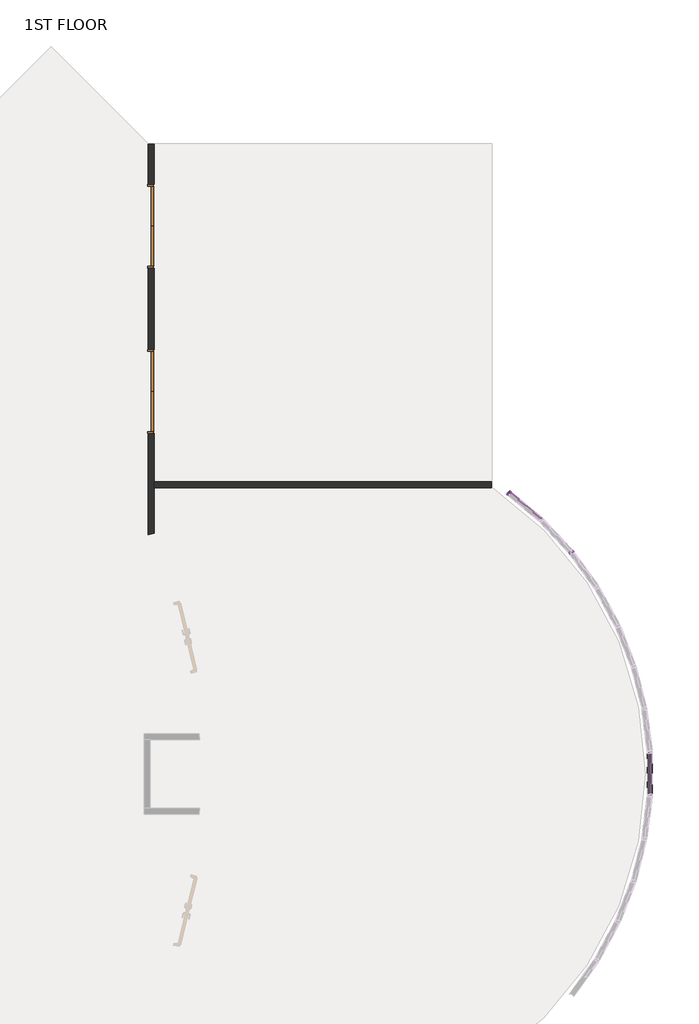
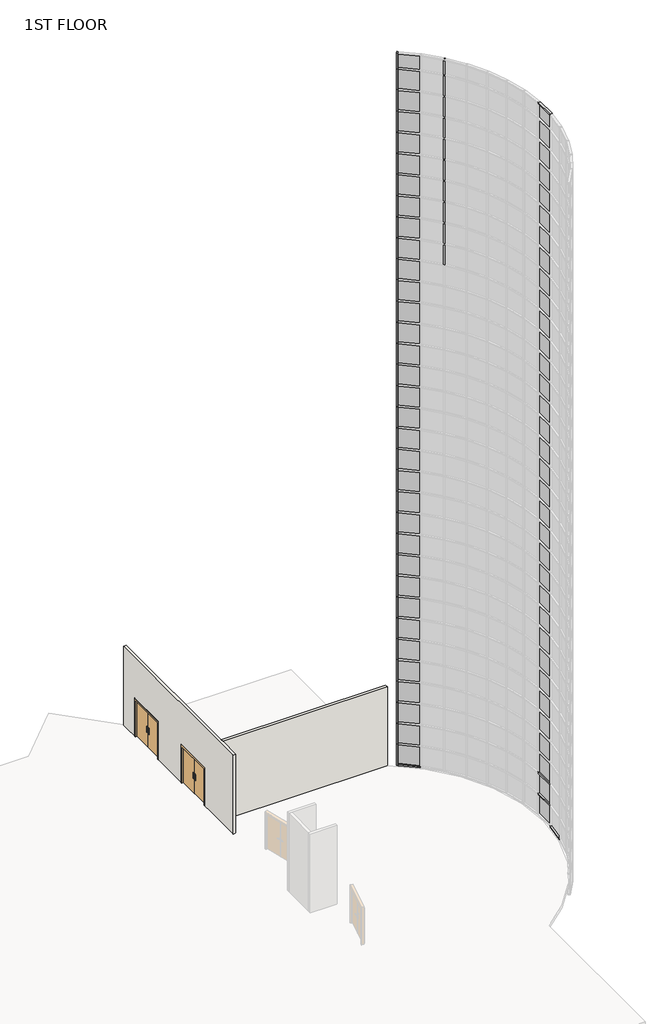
# One storey, part 14 of 17: 68 plates, 49 members, 2 doors, 2 walls.
"""IFC4 building model written with IfcOpenShell, lengths in millimetres."""

from ifc_helpers import new_model, si_unit, frame, origin, place, context, project, spatial, polyline, outline, extrude, faceted_brep, transform, mapped, element, save
from components import door_b3a27a16, member_56cb0dcd, member_8b20f1e8, member_0c249660, member_2b49869a, member_410c6227, member_73c23c35, member_75074519, system_panel_glazed_523f05bf, system_panel_glazed_ce2914f7, system_panel_glazed_4e7d67ad, system_panel_glazed_e049e42f, system_panel_glazed_17a02f56, system_panel_glazed_5ae89cf9

model = new_model("IFC4")

# Units and contexts
model_context = context("Model", 3, world=origin())
ifc_project = project(units=[si_unit("LENGTHUNIT", "METRE", prefix="MILLI")], contexts=[model_context])

# Site, building, storey
site = spatial("IfcSite", under=ifc_project)
building = spatial("IfcBuilding", under=site)
storey = spatial("IfcBuildingStorey", under=building, Name="1ST FLOOR", Elevation=4572.0)

# Doors
placement = place(None, origin())
door_shape = door_b3a27a16(model_context)
element("IfcDoor", 1, ObjectType="Door-Passage-Double-Flush-Dbl_Acting : 84\" x 84\"", at=placement, inside=storey, context=model_context, shape_type="MappedRepresentation", body=[
    mapped(door_shape, transform((34956.2675515, 31499.175, 4572.0), x_axis=(0.0, -1.0, 0.0), y_axis=(1.0, 0.0, 0.0), z_axis=(0.0, 0.0, 1.0))),
])
element("IfcDoor", 2, ObjectType="Door-Passage-Double-Flush-Dbl_Acting : 84\" x 84\"", at=placement, inside=storey, context=model_context, shape_type="MappedRepresentation", body=[
    mapped(door_shape, transform((34956.2675515, 27101.8, 4572.0), x_axis=(0.0, -1.0, 0.0), y_axis=(1.0, 0.0, 0.0), z_axis=(0.0, 0.0, 1.0))),
])

# Members
member_shape = member_56cb0dcd(model_context)
element("IfcMember", 3, ObjectType="Rectangular Mullion : 2.5\" x 5\" rectangular", at=placement, inside=storey, context=model_context, shape_type="MappedRepresentation", body=[
    mapped(member_shape, transform((48255.7227419, 16370.6587498, 45720.0), x_axis=(0.0, 0.0, 1.0), y_axis=(-1.0, 0.0, 0.0), z_axis=(0.0, -1.0, 0.0))),
])
member_2_shape = member_8b20f1e8(model_context)
element("IfcMember", 4, ObjectType="Rectangular Mullion : 2.5\" x 5\" rectangular", at=placement, inside=storey, context=model_context, shape_type="MappedRepresentation", body=[
    mapped(member_2_shape, transform((44528.7242152, 24373.4791024, 4572.0), x_axis=(0.0, 0.0, -1.0), y_axis=(-0.641203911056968, -0.7673705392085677, 0.0), z_axis=(-0.7673705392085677, 0.641203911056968, 0.0))),
])
element("IfcMember", 5, ObjectType="Rectangular Mullion : 2.5\" x 5\" rectangular", at=placement, inside=storey, context=model_context, shape_type="MappedRepresentation", body=[
    mapped(member_shape, transform((48251.7655333, 16307.4063214, 4572.0), x_axis=(0.0, 0.0, -1.0), y_axis=(-0.9922024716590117, 0.12463649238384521, 0.0), z_axis=(0.12463649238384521, 0.9922024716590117, 0.0))),
])
member_3_shape = member_0c249660(model_context)
element("IfcMember", 6, ObjectType="Rectangular Mullion : 2.5\" x 5\" rectangular", at=placement, inside=storey, context=model_context, shape_type="MappedRepresentation", body=[
    mapped(member_3_shape, transform((48255.7227419, 16370.6587498, 5791.2), x_axis=(0.0, 0.0, 1.0), y_axis=(-1.0, 0.0, 0.0), z_axis=(0.0, -1.0, 0.0))),
])
element("IfcMember", 7, ObjectType="Rectangular Mullion : 2.5\" x 5\" rectangular", at=placement, inside=storey, context=model_context, shape_type="MappedRepresentation", body=[
    mapped(member_3_shape, transform((48255.7227419, 16370.6587498, 7010.4), x_axis=(0.0, 0.0, 1.0), y_axis=(-1.0, 0.0, 0.0), z_axis=(0.0, -1.0, 0.0))),
])
member_4_shape = member_2b49869a(model_context)
element("IfcMember", 8, ObjectType="Rectangular Mullion : 2.5\" x 5\" rectangular", at=placement, inside=storey, context=model_context, shape_type="MappedRepresentation", body=[
    mapped(member_4_shape, transform((46162.5812636, 22819.6275032, 33832.8), x_axis=(0.6344432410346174, -0.7729694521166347, 0.0), y_axis=(-0.7729694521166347, -0.6344432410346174, 0.0), z_axis=(0.0, 0.0, -1.0))),
])
element("IfcMember", 9, ObjectType="Rectangular Mullion : 2.5\" x 5\" rectangular", at=placement, inside=storey, context=model_context, shape_type="MappedRepresentation", body=[
    mapped(member_4_shape, transform((46162.5812636, 22819.6275032, 35052.0), x_axis=(0.6344432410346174, -0.7729694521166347, 0.0), y_axis=(-0.7729694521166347, -0.6344432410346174, 0.0), z_axis=(0.0, 0.0, -1.0))),
])
element("IfcMember", 10, ObjectType="Rectangular Mullion : 2.5\" x 5\" rectangular", at=placement, inside=storey, context=model_context, shape_type="MappedRepresentation", body=[
    mapped(member_4_shape, transform((46162.5812636, 22819.6275032, 36271.2), x_axis=(0.6344432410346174, -0.7729694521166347, 0.0), y_axis=(-0.7729694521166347, -0.6344432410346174, 0.0), z_axis=(0.0, 0.0, -1.0))),
])
element("IfcMember", 11, ObjectType="Rectangular Mullion : 2.5\" x 5\" rectangular", at=placement, inside=storey, context=model_context, shape_type="MappedRepresentation", body=[
    mapped(member_4_shape, transform((46162.5812636, 22819.6275032, 37490.4), x_axis=(0.6344432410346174, -0.7729694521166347, 0.0), y_axis=(-0.7729694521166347, -0.6344432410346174, 0.0), z_axis=(0.0, 0.0, -1.0))),
])
element("IfcMember", 12, ObjectType="Rectangular Mullion : 2.5\" x 5\" rectangular", at=placement, inside=storey, context=model_context, shape_type="MappedRepresentation", body=[
    mapped(member_4_shape, transform((46162.5812636, 22819.6275032, 38709.6), x_axis=(0.6344432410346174, -0.7729694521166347, 0.0), y_axis=(-0.7729694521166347, -0.6344432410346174, 0.0), z_axis=(0.0, 0.0, -1.0))),
])
element("IfcMember", 13, ObjectType="Rectangular Mullion : 2.5\" x 5\" rectangular", at=placement, inside=storey, context=model_context, shape_type="MappedRepresentation", body=[
    mapped(member_4_shape, transform((46162.5812636, 22819.6275032, 39928.8), x_axis=(0.6344432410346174, -0.7729694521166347, 0.0), y_axis=(-0.7729694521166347, -0.6344432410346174, 0.0), z_axis=(0.0, 0.0, -1.0))),
])
element("IfcMember", 14, ObjectType="Rectangular Mullion : 2.5\" x 5\" rectangular", at=placement, inside=storey, context=model_context, shape_type="MappedRepresentation", body=[
    mapped(member_4_shape, transform((46162.5812636, 22819.6275032, 41148.0), x_axis=(0.6344432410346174, -0.7729694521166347, 0.0), y_axis=(-0.7729694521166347, -0.6344432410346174, 0.0), z_axis=(0.0, 0.0, -1.0))),
])
element("IfcMember", 15, ObjectType="Rectangular Mullion : 2.5\" x 5\" rectangular", at=placement, inside=storey, context=model_context, shape_type="MappedRepresentation", body=[
    mapped(member_4_shape, transform((46162.5812636, 22819.6275032, 42367.2), x_axis=(0.6344432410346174, -0.7729694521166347, 0.0), y_axis=(-0.7729694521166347, -0.6344432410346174, 0.0), z_axis=(0.0, 0.0, -1.0))),
])
element("IfcMember", 16, ObjectType="Rectangular Mullion : 2.5\" x 5\" rectangular", at=placement, inside=storey, context=model_context, shape_type="MappedRepresentation", body=[
    mapped(member_4_shape, transform((46162.5812636, 22819.6275032, 43586.4), x_axis=(0.6344432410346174, -0.7729694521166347, 0.0), y_axis=(-0.7729694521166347, -0.6344432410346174, 0.0), z_axis=(0.0, 0.0, -1.0))),
])
member_5_shape = member_410c6227(model_context)
element("IfcMember", 17, ObjectType="Rectangular Mullion : 2.5\" x 5\" rectangular", at=placement, inside=storey, context=model_context, shape_type="MappedRepresentation", body=[
    mapped(member_5_shape, transform((46162.5812636, 22819.6275032, 44805.6), x_axis=(0.6344432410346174, -0.7729694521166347, 0.0), y_axis=(-0.7729694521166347, -0.6344432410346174, 0.0), z_axis=(0.0, 0.0, -1.0))),
])
member_6_shape = member_73c23c35(model_context)
element("IfcMember", 18, ObjectType="Rectangular Mullion : 2.5\" x 5\" rectangular", at=placement, inside=storey, context=model_context, shape_type="MappedRepresentation", body=[
    mapped(member_6_shape, transform((44479.996186, 24414.1955507, 45720.0), x_axis=(-0.7673705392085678, 0.6412039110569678, 0.0), y_axis=(-0.6412039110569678, -0.7673705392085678, 0.0), z_axis=(0.0, 0.0, 1.0))),
])
member_7_shape = member_75074519(model_context)
element("IfcMember", 19, ObjectType="Rectangular Mullion : 2.5\" x 5\" rectangular", at=placement, inside=storey, context=model_context, shape_type="MappedRepresentation", body=[
    mapped(member_7_shape, transform((44479.996186, 24414.1955507, 5791.2), x_axis=(-0.7673705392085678, 0.6412039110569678, 0.0), y_axis=(-0.6412039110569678, -0.7673705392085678, 0.0), z_axis=(0.0, 0.0, 1.0))),
])
element("IfcMember", 20, ObjectType="Rectangular Mullion : 2.5\" x 5\" rectangular", at=placement, inside=storey, context=model_context, shape_type="MappedRepresentation", body=[
    mapped(member_7_shape, transform((44479.996186, 24414.1955507, 7010.4), x_axis=(-0.7673705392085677, 0.641203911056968, 0.0), y_axis=(-0.641203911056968, -0.7673705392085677, 0.0), z_axis=(0.0, 0.0, 1.0))),
])
element("IfcMember", 21, ObjectType="Rectangular Mullion : 2.5\" x 5\" rectangular", at=placement, inside=storey, context=model_context, shape_type="MappedRepresentation", body=[
    mapped(member_7_shape, transform((44479.996186, 24414.1955507, 8229.6), x_axis=(-0.7673705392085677, 0.641203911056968, 0.0), y_axis=(-0.641203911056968, -0.7673705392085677, 0.0), z_axis=(0.0, 0.0, 1.0))),
])
element("IfcMember", 22, ObjectType="Rectangular Mullion : 2.5\" x 5\" rectangular", at=placement, inside=storey, context=model_context, shape_type="MappedRepresentation", body=[
    mapped(member_7_shape, transform((44479.996186, 24414.1955507, 9448.8), x_axis=(-0.7673705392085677, 0.641203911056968, 0.0), y_axis=(-0.641203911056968, -0.7673705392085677, 0.0), z_axis=(0.0, 0.0, 1.0))),
])
element("IfcMember", 23, ObjectType="Rectangular Mullion : 2.5\" x 5\" rectangular", at=placement, inside=storey, context=model_context, shape_type="MappedRepresentation", body=[
    mapped(member_7_shape, transform((44479.996186, 24414.1955507, 10668.0), x_axis=(-0.7673705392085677, 0.641203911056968, 0.0), y_axis=(-0.641203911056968, -0.7673705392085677, 0.0), z_axis=(0.0, 0.0, 1.0))),
])
element("IfcMember", 24, ObjectType="Rectangular Mullion : 2.5\" x 5\" rectangular", at=placement, inside=storey, context=model_context, shape_type="MappedRepresentation", body=[
    mapped(member_7_shape, transform((44479.996186, 24414.1955507, 11887.2), x_axis=(-0.7673705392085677, 0.641203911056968, 0.0), y_axis=(-0.641203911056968, -0.7673705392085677, 0.0), z_axis=(0.0, 0.0, 1.0))),
])
element("IfcMember", 25, ObjectType="Rectangular Mullion : 2.5\" x 5\" rectangular", at=placement, inside=storey, context=model_context, shape_type="MappedRepresentation", body=[
    mapped(member_7_shape, transform((44479.996186, 24414.1955507, 13106.4), x_axis=(-0.7673705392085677, 0.641203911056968, 0.0), y_axis=(-0.641203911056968, -0.7673705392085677, 0.0), z_axis=(0.0, 0.0, 1.0))),
])
element("IfcMember", 26, ObjectType="Rectangular Mullion : 2.5\" x 5\" rectangular", at=placement, inside=storey, context=model_context, shape_type="MappedRepresentation", body=[
    mapped(member_7_shape, transform((44479.996186, 24414.1955507, 14325.6), x_axis=(-0.7673705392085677, 0.641203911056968, 0.0), y_axis=(-0.641203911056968, -0.7673705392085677, 0.0), z_axis=(0.0, 0.0, 1.0))),
])
element("IfcMember", 27, ObjectType="Rectangular Mullion : 2.5\" x 5\" rectangular", at=placement, inside=storey, context=model_context, shape_type="MappedRepresentation", body=[
    mapped(member_7_shape, transform((44479.996186, 24414.1955507, 15544.8), x_axis=(-0.7673705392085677, 0.641203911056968, 0.0), y_axis=(-0.641203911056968, -0.7673705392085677, 0.0), z_axis=(0.0, 0.0, 1.0))),
])
element("IfcMember", 28, ObjectType="Rectangular Mullion : 2.5\" x 5\" rectangular", at=placement, inside=storey, context=model_context, shape_type="MappedRepresentation", body=[
    mapped(member_7_shape, transform((44479.996186, 24414.1955507, 16764.0), x_axis=(-0.7673705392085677, 0.641203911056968, 0.0), y_axis=(-0.641203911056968, -0.7673705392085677, 0.0), z_axis=(0.0, 0.0, 1.0))),
])
element("IfcMember", 29, ObjectType="Rectangular Mullion : 2.5\" x 5\" rectangular", at=placement, inside=storey, context=model_context, shape_type="MappedRepresentation", body=[
    mapped(member_7_shape, transform((44479.996186, 24414.1955507, 17983.2), x_axis=(-0.7673705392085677, 0.641203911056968, 0.0), y_axis=(-0.641203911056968, -0.7673705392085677, 0.0), z_axis=(0.0, 0.0, 1.0))),
])
element("IfcMember", 30, ObjectType="Rectangular Mullion : 2.5\" x 5\" rectangular", at=placement, inside=storey, context=model_context, shape_type="MappedRepresentation", body=[
    mapped(member_7_shape, transform((44479.996186, 24414.1955507, 19202.4), x_axis=(-0.7673705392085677, 0.641203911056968, 0.0), y_axis=(-0.641203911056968, -0.7673705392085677, 0.0), z_axis=(0.0, 0.0, 1.0))),
])
element("IfcMember", 31, ObjectType="Rectangular Mullion : 2.5\" x 5\" rectangular", at=placement, inside=storey, context=model_context, shape_type="MappedRepresentation", body=[
    mapped(member_7_shape, transform((44479.996186, 24414.1955507, 20421.6), x_axis=(-0.7673705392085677, 0.641203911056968, 0.0), y_axis=(-0.641203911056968, -0.7673705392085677, 0.0), z_axis=(0.0, 0.0, 1.0))),
])
element("IfcMember", 32, ObjectType="Rectangular Mullion : 2.5\" x 5\" rectangular", at=placement, inside=storey, context=model_context, shape_type="MappedRepresentation", body=[
    mapped(member_7_shape, transform((44479.996186, 24414.1955507, 21640.8), x_axis=(-0.7673705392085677, 0.641203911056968, 0.0), y_axis=(-0.641203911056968, -0.7673705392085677, 0.0), z_axis=(0.0, 0.0, 1.0))),
])
element("IfcMember", 33, ObjectType="Rectangular Mullion : 2.5\" x 5\" rectangular", at=placement, inside=storey, context=model_context, shape_type="MappedRepresentation", body=[
    mapped(member_7_shape, transform((44479.996186, 24414.1955507, 22860.0), x_axis=(-0.7673705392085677, 0.641203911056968, 0.0), y_axis=(-0.641203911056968, -0.7673705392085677, 0.0), z_axis=(0.0, 0.0, 1.0))),
])
element("IfcMember", 34, ObjectType="Rectangular Mullion : 2.5\" x 5\" rectangular", at=placement, inside=storey, context=model_context, shape_type="MappedRepresentation", body=[
    mapped(member_7_shape, transform((44479.996186, 24414.1955507, 24079.2), x_axis=(-0.7673705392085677, 0.641203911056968, 0.0), y_axis=(-0.641203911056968, -0.7673705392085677, 0.0), z_axis=(0.0, 0.0, 1.0))),
])
element("IfcMember", 35, ObjectType="Rectangular Mullion : 2.5\" x 5\" rectangular", at=placement, inside=storey, context=model_context, shape_type="MappedRepresentation", body=[
    mapped(member_7_shape, transform((44479.996186, 24414.1955507, 25298.4), x_axis=(-0.7673705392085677, 0.641203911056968, 0.0), y_axis=(-0.641203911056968, -0.7673705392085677, 0.0), z_axis=(0.0, 0.0, 1.0))),
])
element("IfcMember", 36, ObjectType="Rectangular Mullion : 2.5\" x 5\" rectangular", at=placement, inside=storey, context=model_context, shape_type="MappedRepresentation", body=[
    mapped(member_7_shape, transform((44479.996186, 24414.1955507, 26517.6), x_axis=(-0.7673705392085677, 0.641203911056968, 0.0), y_axis=(-0.641203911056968, -0.7673705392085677, 0.0), z_axis=(0.0, 0.0, 1.0))),
])
element("IfcMember", 37, ObjectType="Rectangular Mullion : 2.5\" x 5\" rectangular", at=placement, inside=storey, context=model_context, shape_type="MappedRepresentation", body=[
    mapped(member_7_shape, transform((44479.996186, 24414.1955507, 27736.8), x_axis=(-0.7673705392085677, 0.641203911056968, 0.0), y_axis=(-0.641203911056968, -0.7673705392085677, 0.0), z_axis=(0.0, 0.0, 1.0))),
])
element("IfcMember", 38, ObjectType="Rectangular Mullion : 2.5\" x 5\" rectangular", at=placement, inside=storey, context=model_context, shape_type="MappedRepresentation", body=[
    mapped(member_7_shape, transform((44479.996186, 24414.1955507, 28956.0), x_axis=(-0.7673705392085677, 0.641203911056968, 0.0), y_axis=(-0.641203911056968, -0.7673705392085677, 0.0), z_axis=(0.0, 0.0, 1.0))),
])
element("IfcMember", 39, ObjectType="Rectangular Mullion : 2.5\" x 5\" rectangular", at=placement, inside=storey, context=model_context, shape_type="MappedRepresentation", body=[
    mapped(member_7_shape, transform((44479.996186, 24414.1955507, 30175.2), x_axis=(-0.7673705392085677, 0.641203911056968, 0.0), y_axis=(-0.641203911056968, -0.7673705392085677, 0.0), z_axis=(0.0, 0.0, 1.0))),
])
element("IfcMember", 40, ObjectType="Rectangular Mullion : 2.5\" x 5\" rectangular", at=placement, inside=storey, context=model_context, shape_type="MappedRepresentation", body=[
    mapped(member_7_shape, transform((44479.996186, 24414.1955507, 31394.4), x_axis=(-0.7673705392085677, 0.641203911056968, 0.0), y_axis=(-0.641203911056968, -0.7673705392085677, 0.0), z_axis=(0.0, 0.0, 1.0))),
])
element("IfcMember", 41, ObjectType="Rectangular Mullion : 2.5\" x 5\" rectangular", at=placement, inside=storey, context=model_context, shape_type="MappedRepresentation", body=[
    mapped(member_7_shape, transform((44479.996186, 24414.1955507, 32613.6), x_axis=(-0.7673705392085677, 0.641203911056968, 0.0), y_axis=(-0.641203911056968, -0.7673705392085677, 0.0), z_axis=(0.0, 0.0, 1.0))),
])
element("IfcMember", 42, ObjectType="Rectangular Mullion : 2.5\" x 5\" rectangular", at=placement, inside=storey, context=model_context, shape_type="MappedRepresentation", body=[
    mapped(member_7_shape, transform((44479.996186, 24414.1955507, 33832.8), x_axis=(-0.7673705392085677, 0.641203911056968, 0.0), y_axis=(-0.641203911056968, -0.7673705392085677, 0.0), z_axis=(0.0, 0.0, 1.0))),
])
element("IfcMember", 43, ObjectType="Rectangular Mullion : 2.5\" x 5\" rectangular", at=placement, inside=storey, context=model_context, shape_type="MappedRepresentation", body=[
    mapped(member_7_shape, transform((44479.996186, 24414.1955507, 35052.0), x_axis=(-0.7673705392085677, 0.641203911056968, 0.0), y_axis=(-0.641203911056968, -0.7673705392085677, 0.0), z_axis=(0.0, 0.0, 1.0))),
])
element("IfcMember", 44, ObjectType="Rectangular Mullion : 2.5\" x 5\" rectangular", at=placement, inside=storey, context=model_context, shape_type="MappedRepresentation", body=[
    mapped(member_7_shape, transform((44479.996186, 24414.1955507, 36271.2), x_axis=(-0.7673705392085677, 0.641203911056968, 0.0), y_axis=(-0.641203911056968, -0.7673705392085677, 0.0), z_axis=(0.0, 0.0, 1.0))),
])
element("IfcMember", 45, ObjectType="Rectangular Mullion : 2.5\" x 5\" rectangular", at=placement, inside=storey, context=model_context, shape_type="MappedRepresentation", body=[
    mapped(member_7_shape, transform((44479.996186, 24414.1955507, 37490.4), x_axis=(-0.7673705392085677, 0.641203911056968, 0.0), y_axis=(-0.641203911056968, -0.7673705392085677, 0.0), z_axis=(0.0, 0.0, 1.0))),
])
element("IfcMember", 46, ObjectType="Rectangular Mullion : 2.5\" x 5\" rectangular", at=placement, inside=storey, context=model_context, shape_type="MappedRepresentation", body=[
    mapped(member_7_shape, transform((44479.996186, 24414.1955507, 38709.6), x_axis=(-0.7673705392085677, 0.641203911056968, 0.0), y_axis=(-0.641203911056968, -0.7673705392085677, 0.0), z_axis=(0.0, 0.0, 1.0))),
])
element("IfcMember", 47, ObjectType="Rectangular Mullion : 2.5\" x 5\" rectangular", at=placement, inside=storey, context=model_context, shape_type="MappedRepresentation", body=[
    mapped(member_7_shape, transform((44479.996186, 24414.1955507, 39928.8), x_axis=(-0.7673705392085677, 0.641203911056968, 0.0), y_axis=(-0.641203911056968, -0.7673705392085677, 0.0), z_axis=(0.0, 0.0, 1.0))),
])
element("IfcMember", 48, ObjectType="Rectangular Mullion : 2.5\" x 5\" rectangular", at=placement, inside=storey, context=model_context, shape_type="MappedRepresentation", body=[
    mapped(member_7_shape, transform((44479.996186, 24414.1955507, 41148.0), x_axis=(-0.7673705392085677, 0.641203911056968, 0.0), y_axis=(-0.641203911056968, -0.7673705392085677, 0.0), z_axis=(0.0, 0.0, 1.0))),
])
element("IfcMember", 49, ObjectType="Rectangular Mullion : 2.5\" x 5\" rectangular", at=placement, inside=storey, context=model_context, shape_type="MappedRepresentation", body=[
    mapped(member_7_shape, transform((44479.996186, 24414.1955507, 42367.2), x_axis=(-0.7673705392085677, 0.641203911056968, 0.0), y_axis=(-0.641203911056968, -0.7673705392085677, 0.0), z_axis=(0.0, 0.0, 1.0))),
])
element("IfcMember", 50, ObjectType="Rectangular Mullion : 2.5\" x 5\" rectangular", at=placement, inside=storey, context=model_context, shape_type="MappedRepresentation", body=[
    mapped(member_7_shape, transform((44479.996186, 24414.1955507, 43586.4), x_axis=(-0.7673705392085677, 0.641203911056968, 0.0), y_axis=(-0.641203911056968, -0.7673705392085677, 0.0), z_axis=(0.0, 0.0, 1.0))),
])
element("IfcMember", 51, ObjectType="Rectangular Mullion : 2.5\" x 5\" rectangular", at=placement, inside=storey, context=model_context, shape_type="MappedRepresentation", body=[
    mapped(member_7_shape, transform((44479.996186, 24414.1955507, 44805.6), x_axis=(-0.7673705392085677, 0.641203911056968, 0.0), y_axis=(-0.641203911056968, -0.7673705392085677, 0.0), z_axis=(0.0, 0.0, 1.0))),
])

# Plates
system_panel_glazed_shape = system_panel_glazed_523f05bf(model_context)
element("IfcPlate", 52, ObjectType="System Panel : Glazed", at=placement, inside=storey, context=model_context, shape_type="MappedRepresentation", body=[
    mapped(system_panel_glazed_shape, transform((44937.7643703, 24031.690965, 4635.5), x_axis=(0.7673705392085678, -0.6412039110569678, 0.0), y_axis=(0.6412039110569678, 0.7673705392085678, 0.0), z_axis=(0.0, 0.0, 1.0))),
])
system_panel_glazed_2_shape = system_panel_glazed_ce2914f7(model_context)
element("IfcPlate", 53, ObjectType="System Panel : Glazed", at=placement, inside=storey, context=model_context, shape_type="MappedRepresentation", body=[
    mapped(system_panel_glazed_2_shape, transform((48255.7227419, 16919.575, 4635.5), x_axis=(0.0, -1.0, 0.0), y_axis=(1.0, 0.0, 0.0), z_axis=(0.0, 0.0, 1.0))),
])
system_panel_glazed_3_shape = system_panel_glazed_4e7d67ad(model_context)
element("IfcPlate", 54, ObjectType="System Panel : Glazed", at=placement, inside=storey, context=model_context, shape_type="MappedRepresentation", body=[
    mapped(system_panel_glazed_3_shape, transform((44937.7643703, 24031.690965, 5822.95), x_axis=(0.7673705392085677, -0.641203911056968, 0.0), y_axis=(0.641203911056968, 0.7673705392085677, 0.0), z_axis=(0.0, 0.0, 1.0))),
])
element("IfcPlate", 55, ObjectType="System Panel : Glazed", at=placement, inside=storey, context=model_context, shape_type="MappedRepresentation", body=[
    mapped(system_panel_glazed_3_shape, transform((44937.7643703, 24031.690965, 7042.15), x_axis=(0.7673705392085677, -0.641203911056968, 0.0), y_axis=(0.641203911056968, 0.7673705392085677, 0.0), z_axis=(0.0, 0.0, 1.0))),
])
element("IfcPlate", 56, ObjectType="System Panel : Glazed", at=placement, inside=storey, context=model_context, shape_type="MappedRepresentation", body=[
    mapped(system_panel_glazed_3_shape, transform((44937.7643703, 24031.690965, 8261.35), x_axis=(0.7673705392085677, -0.641203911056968, 0.0), y_axis=(0.641203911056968, 0.7673705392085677, 0.0), z_axis=(0.0, 0.0, 1.0))),
])
element("IfcPlate", 57, ObjectType="System Panel : Glazed", at=placement, inside=storey, context=model_context, shape_type="MappedRepresentation", body=[
    mapped(system_panel_glazed_3_shape, transform((44937.7643703, 24031.690965, 9480.55), x_axis=(0.7673705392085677, -0.641203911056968, 0.0), y_axis=(0.641203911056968, 0.7673705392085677, 0.0), z_axis=(0.0, 0.0, 1.0))),
])
element("IfcPlate", 58, ObjectType="System Panel : Glazed", at=placement, inside=storey, context=model_context, shape_type="MappedRepresentation", body=[
    mapped(system_panel_glazed_3_shape, transform((44937.7643703, 24031.690965, 10699.75), x_axis=(0.7673705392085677, -0.641203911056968, 0.0), y_axis=(0.641203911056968, 0.7673705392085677, 0.0), z_axis=(0.0, 0.0, 1.0))),
])
element("IfcPlate", 59, ObjectType="System Panel : Glazed", at=placement, inside=storey, context=model_context, shape_type="MappedRepresentation", body=[
    mapped(system_panel_glazed_3_shape, transform((44937.7643703, 24031.690965, 11918.95), x_axis=(0.7673705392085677, -0.641203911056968, 0.0), y_axis=(0.641203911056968, 0.7673705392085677, 0.0), z_axis=(0.0, 0.0, 1.0))),
])
element("IfcPlate", 60, ObjectType="System Panel : Glazed", at=placement, inside=storey, context=model_context, shape_type="MappedRepresentation", body=[
    mapped(system_panel_glazed_3_shape, transform((44937.7643703, 24031.690965, 13138.15), x_axis=(0.7673705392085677, -0.641203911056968, 0.0), y_axis=(0.641203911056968, 0.7673705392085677, 0.0), z_axis=(0.0, 0.0, 1.0))),
])
element("IfcPlate", 61, ObjectType="System Panel : Glazed", at=placement, inside=storey, context=model_context, shape_type="MappedRepresentation", body=[
    mapped(system_panel_glazed_3_shape, transform((44937.7643703, 24031.690965, 14357.35), x_axis=(0.7673705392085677, -0.641203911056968, 0.0), y_axis=(0.641203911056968, 0.7673705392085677, 0.0), z_axis=(0.0, 0.0, 1.0))),
])
element("IfcPlate", 62, ObjectType="System Panel : Glazed", at=placement, inside=storey, context=model_context, shape_type="MappedRepresentation", body=[
    mapped(system_panel_glazed_3_shape, transform((44937.7643703, 24031.690965, 15576.55), x_axis=(0.7673705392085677, -0.641203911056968, 0.0), y_axis=(0.641203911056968, 0.7673705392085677, 0.0), z_axis=(0.0, 0.0, 1.0))),
])
element("IfcPlate", 63, ObjectType="System Panel : Glazed", at=placement, inside=storey, context=model_context, shape_type="MappedRepresentation", body=[
    mapped(system_panel_glazed_3_shape, transform((44937.7643703, 24031.690965, 16795.75), x_axis=(0.7673705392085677, -0.641203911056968, 0.0), y_axis=(0.641203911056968, 0.7673705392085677, 0.0), z_axis=(0.0, 0.0, 1.0))),
])
element("IfcPlate", 64, ObjectType="System Panel : Glazed", at=placement, inside=storey, context=model_context, shape_type="MappedRepresentation", body=[
    mapped(system_panel_glazed_3_shape, transform((44937.7643703, 24031.690965, 18014.95), x_axis=(0.7673705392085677, -0.641203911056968, 0.0), y_axis=(0.641203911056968, 0.7673705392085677, 0.0), z_axis=(0.0, 0.0, 1.0))),
])
element("IfcPlate", 65, ObjectType="System Panel : Glazed", at=placement, inside=storey, context=model_context, shape_type="MappedRepresentation", body=[
    mapped(system_panel_glazed_3_shape, transform((44937.7643703, 24031.690965, 19234.15), x_axis=(0.7673705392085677, -0.641203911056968, 0.0), y_axis=(0.641203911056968, 0.7673705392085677, 0.0), z_axis=(0.0, 0.0, 1.0))),
])
element("IfcPlate", 66, ObjectType="System Panel : Glazed", at=placement, inside=storey, context=model_context, shape_type="MappedRepresentation", body=[
    mapped(system_panel_glazed_3_shape, transform((44937.7643703, 24031.690965, 20453.35), x_axis=(0.7673705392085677, -0.641203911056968, 0.0), y_axis=(0.641203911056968, 0.7673705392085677, 0.0), z_axis=(0.0, 0.0, 1.0))),
])
element("IfcPlate", 67, ObjectType="System Panel : Glazed", at=placement, inside=storey, context=model_context, shape_type="MappedRepresentation", body=[
    mapped(system_panel_glazed_3_shape, transform((44937.7643703, 24031.690965, 21672.55), x_axis=(0.7673705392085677, -0.641203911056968, 0.0), y_axis=(0.641203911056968, 0.7673705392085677, 0.0), z_axis=(0.0, 0.0, 1.0))),
])
element("IfcPlate", 68, ObjectType="System Panel : Glazed", at=placement, inside=storey, context=model_context, shape_type="MappedRepresentation", body=[
    mapped(system_panel_glazed_3_shape, transform((44937.7643703, 24031.690965, 22891.75), x_axis=(0.7673705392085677, -0.641203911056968, 0.0), y_axis=(0.641203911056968, 0.7673705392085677, 0.0), z_axis=(0.0, 0.0, 1.0))),
])
element("IfcPlate", 69, ObjectType="System Panel : Glazed", at=placement, inside=storey, context=model_context, shape_type="MappedRepresentation", body=[
    mapped(system_panel_glazed_3_shape, transform((44937.7643703, 24031.690965, 24110.95), x_axis=(0.7673705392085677, -0.641203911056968, 0.0), y_axis=(0.641203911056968, 0.7673705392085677, 0.0), z_axis=(0.0, 0.0, 1.0))),
])
element("IfcPlate", 70, ObjectType="System Panel : Glazed", at=placement, inside=storey, context=model_context, shape_type="MappedRepresentation", body=[
    mapped(system_panel_glazed_3_shape, transform((44937.7643703, 24031.690965, 25330.15), x_axis=(0.7673705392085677, -0.641203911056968, 0.0), y_axis=(0.641203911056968, 0.7673705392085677, 0.0), z_axis=(0.0, 0.0, 1.0))),
])
element("IfcPlate", 71, ObjectType="System Panel : Glazed", at=placement, inside=storey, context=model_context, shape_type="MappedRepresentation", body=[
    mapped(system_panel_glazed_3_shape, transform((44937.7643703, 24031.690965, 26549.35), x_axis=(0.7673705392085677, -0.641203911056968, 0.0), y_axis=(0.641203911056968, 0.7673705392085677, 0.0), z_axis=(0.0, 0.0, 1.0))),
])
element("IfcPlate", 72, ObjectType="System Panel : Glazed", at=placement, inside=storey, context=model_context, shape_type="MappedRepresentation", body=[
    mapped(system_panel_glazed_3_shape, transform((44937.7643703, 24031.690965, 27768.55), x_axis=(0.7673705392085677, -0.641203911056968, 0.0), y_axis=(0.641203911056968, 0.7673705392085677, 0.0), z_axis=(0.0, 0.0, 1.0))),
])
element("IfcPlate", 73, ObjectType="System Panel : Glazed", at=placement, inside=storey, context=model_context, shape_type="MappedRepresentation", body=[
    mapped(system_panel_glazed_3_shape, transform((44937.7643703, 24031.690965, 28987.75), x_axis=(0.7673705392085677, -0.641203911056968, 0.0), y_axis=(0.641203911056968, 0.7673705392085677, 0.0), z_axis=(0.0, 0.0, 1.0))),
])
element("IfcPlate", 74, ObjectType="System Panel : Glazed", at=placement, inside=storey, context=model_context, shape_type="MappedRepresentation", body=[
    mapped(system_panel_glazed_3_shape, transform((44937.7643703, 24031.690965, 30206.95), x_axis=(0.7673705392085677, -0.641203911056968, 0.0), y_axis=(0.641203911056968, 0.7673705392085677, 0.0), z_axis=(0.0, 0.0, 1.0))),
])
element("IfcPlate", 75, ObjectType="System Panel : Glazed", at=placement, inside=storey, context=model_context, shape_type="MappedRepresentation", body=[
    mapped(system_panel_glazed_3_shape, transform((44937.7643703, 24031.690965, 31426.15), x_axis=(0.7673705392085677, -0.641203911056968, 0.0), y_axis=(0.641203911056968, 0.7673705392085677, 0.0), z_axis=(0.0, 0.0, 1.0))),
])
element("IfcPlate", 76, ObjectType="System Panel : Glazed", at=placement, inside=storey, context=model_context, shape_type="MappedRepresentation", body=[
    mapped(system_panel_glazed_3_shape, transform((44937.7643703, 24031.690965, 32645.35), x_axis=(0.7673705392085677, -0.641203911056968, 0.0), y_axis=(0.641203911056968, 0.7673705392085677, 0.0), z_axis=(0.0, 0.0, 1.0))),
])
element("IfcPlate", 77, ObjectType="System Panel : Glazed", at=placement, inside=storey, context=model_context, shape_type="MappedRepresentation", body=[
    mapped(system_panel_glazed_3_shape, transform((44937.7643703, 24031.690965, 33864.55), x_axis=(0.7673705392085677, -0.641203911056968, 0.0), y_axis=(0.641203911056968, 0.7673705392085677, 0.0), z_axis=(0.0, 0.0, 1.0))),
])
element("IfcPlate", 78, ObjectType="System Panel : Glazed", at=placement, inside=storey, context=model_context, shape_type="MappedRepresentation", body=[
    mapped(system_panel_glazed_3_shape, transform((44937.7643703, 24031.690965, 35083.75), x_axis=(0.7673705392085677, -0.641203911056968, 0.0), y_axis=(0.641203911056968, 0.7673705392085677, 0.0), z_axis=(0.0, 0.0, 1.0))),
])
element("IfcPlate", 79, ObjectType="System Panel : Glazed", at=placement, inside=storey, context=model_context, shape_type="MappedRepresentation", body=[
    mapped(system_panel_glazed_3_shape, transform((44937.7643703, 24031.690965, 36302.95), x_axis=(0.7673705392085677, -0.641203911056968, 0.0), y_axis=(0.641203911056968, 0.7673705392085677, 0.0), z_axis=(0.0, 0.0, 1.0))),
])
element("IfcPlate", 80, ObjectType="System Panel : Glazed", at=placement, inside=storey, context=model_context, shape_type="MappedRepresentation", body=[
    mapped(system_panel_glazed_3_shape, transform((44937.7643703, 24031.690965, 37522.15), x_axis=(0.7673705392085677, -0.641203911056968, 0.0), y_axis=(0.641203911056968, 0.7673705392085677, 0.0), z_axis=(0.0, 0.0, 1.0))),
])
element("IfcPlate", 81, ObjectType="System Panel : Glazed", at=placement, inside=storey, context=model_context, shape_type="MappedRepresentation", body=[
    mapped(system_panel_glazed_3_shape, transform((44937.7643703, 24031.690965, 38741.35), x_axis=(0.7673705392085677, -0.641203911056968, 0.0), y_axis=(0.641203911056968, 0.7673705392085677, 0.0), z_axis=(0.0, 0.0, 1.0))),
])
element("IfcPlate", 82, ObjectType="System Panel : Glazed", at=placement, inside=storey, context=model_context, shape_type="MappedRepresentation", body=[
    mapped(system_panel_glazed_3_shape, transform((44937.7643703, 24031.690965, 39960.55), x_axis=(0.7673705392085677, -0.641203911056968, 0.0), y_axis=(0.641203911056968, 0.7673705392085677, 0.0), z_axis=(0.0, 0.0, 1.0))),
])
element("IfcPlate", 83, ObjectType="System Panel : Glazed", at=placement, inside=storey, context=model_context, shape_type="MappedRepresentation", body=[
    mapped(system_panel_glazed_3_shape, transform((44937.7643703, 24031.690965, 41179.75), x_axis=(0.7673705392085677, -0.641203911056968, 0.0), y_axis=(0.641203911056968, 0.7673705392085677, 0.0), z_axis=(0.0, 0.0, 1.0))),
])
element("IfcPlate", 84, ObjectType="System Panel : Glazed", at=placement, inside=storey, context=model_context, shape_type="MappedRepresentation", body=[
    mapped(system_panel_glazed_3_shape, transform((44937.7643703, 24031.690965, 42398.95), x_axis=(0.7673705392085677, -0.641203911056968, 0.0), y_axis=(0.641203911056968, 0.7673705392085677, 0.0), z_axis=(0.0, 0.0, 1.0))),
])
element("IfcPlate", 85, ObjectType="System Panel : Glazed", at=placement, inside=storey, context=model_context, shape_type="MappedRepresentation", body=[
    mapped(system_panel_glazed_3_shape, transform((44937.7643703, 24031.690965, 43618.15), x_axis=(0.7673705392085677, -0.641203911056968, 0.0), y_axis=(0.641203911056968, 0.7673705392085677, 0.0), z_axis=(0.0, 0.0, 1.0))),
])
system_panel_glazed_4_shape = system_panel_glazed_e049e42f(model_context)
element("IfcPlate", 86, ObjectType="System Panel : Glazed", at=placement, inside=storey, context=model_context, shape_type="MappedRepresentation", body=[
    mapped(system_panel_glazed_4_shape, transform((48255.7227419, 16919.575, 5822.95), x_axis=(0.0, -1.0, 0.0), y_axis=(1.0, 0.0, 0.0), z_axis=(0.0, 0.0, 1.0))),
])
element("IfcPlate", 87, ObjectType="System Panel : Glazed", at=placement, inside=storey, context=model_context, shape_type="MappedRepresentation", body=[
    mapped(system_panel_glazed_4_shape, transform((48255.7227419, 16919.575, 7042.15), x_axis=(0.0, -1.0, 0.0), y_axis=(1.0, 0.0, 0.0), z_axis=(0.0, 0.0, 1.0))),
])
element("IfcPlate", 88, ObjectType="System Panel : Glazed", at=placement, inside=storey, context=model_context, shape_type="MappedRepresentation", body=[
    mapped(system_panel_glazed_4_shape, transform((48255.7227419, 16919.575, 8261.35), x_axis=(0.0, -1.0, 0.0), y_axis=(1.0, 0.0, 0.0), z_axis=(0.0, 0.0, 1.0))),
])
element("IfcPlate", 89, ObjectType="System Panel : Glazed", at=placement, inside=storey, context=model_context, shape_type="MappedRepresentation", body=[
    mapped(system_panel_glazed_4_shape, transform((48255.7227419, 16919.575, 9480.55), x_axis=(0.0, -1.0, 0.0), y_axis=(1.0, 0.0, 0.0), z_axis=(0.0, 0.0, 1.0))),
])
element("IfcPlate", 90, ObjectType="System Panel : Glazed", at=placement, inside=storey, context=model_context, shape_type="MappedRepresentation", body=[
    mapped(system_panel_glazed_4_shape, transform((48255.7227419, 16919.575, 10699.75), x_axis=(0.0, -1.0, 0.0), y_axis=(1.0, 0.0, 0.0), z_axis=(0.0, 0.0, 1.0))),
])
element("IfcPlate", 91, ObjectType="System Panel : Glazed", at=placement, inside=storey, context=model_context, shape_type="MappedRepresentation", body=[
    mapped(system_panel_glazed_4_shape, transform((48255.7227419, 16919.575, 11918.95), x_axis=(0.0, -1.0, 0.0), y_axis=(1.0, 0.0, 0.0), z_axis=(0.0, 0.0, 1.0))),
])
element("IfcPlate", 92, ObjectType="System Panel : Glazed", at=placement, inside=storey, context=model_context, shape_type="MappedRepresentation", body=[
    mapped(system_panel_glazed_4_shape, transform((48255.7227419, 16919.575, 13138.15), x_axis=(0.0, -1.0, 0.0), y_axis=(1.0, 0.0, 0.0), z_axis=(0.0, 0.0, 1.0))),
])
element("IfcPlate", 93, ObjectType="System Panel : Glazed", at=placement, inside=storey, context=model_context, shape_type="MappedRepresentation", body=[
    mapped(system_panel_glazed_4_shape, transform((48255.7227419, 16919.575, 14357.35), x_axis=(0.0, -1.0, 0.0), y_axis=(1.0, 0.0, 0.0), z_axis=(0.0, 0.0, 1.0))),
])
element("IfcPlate", 94, ObjectType="System Panel : Glazed", at=placement, inside=storey, context=model_context, shape_type="MappedRepresentation", body=[
    mapped(system_panel_glazed_4_shape, transform((48255.7227419, 16919.575, 15576.55), x_axis=(0.0, -1.0, 0.0), y_axis=(1.0, 0.0, 0.0), z_axis=(0.0, 0.0, 1.0))),
])
element("IfcPlate", 95, ObjectType="System Panel : Glazed", at=placement, inside=storey, context=model_context, shape_type="MappedRepresentation", body=[
    mapped(system_panel_glazed_4_shape, transform((48255.7227419, 16919.575, 16795.75), x_axis=(0.0, -1.0, 0.0), y_axis=(1.0, 0.0, 0.0), z_axis=(0.0, 0.0, 1.0))),
])
element("IfcPlate", 96, ObjectType="System Panel : Glazed", at=placement, inside=storey, context=model_context, shape_type="MappedRepresentation", body=[
    mapped(system_panel_glazed_4_shape, transform((48255.7227419, 16919.575, 18014.95), x_axis=(0.0, -1.0, 0.0), y_axis=(1.0, 0.0, 0.0), z_axis=(0.0, 0.0, 1.0))),
])
element("IfcPlate", 97, ObjectType="System Panel : Glazed", at=placement, inside=storey, context=model_context, shape_type="MappedRepresentation", body=[
    mapped(system_panel_glazed_4_shape, transform((48255.7227419, 16919.575, 19234.15), x_axis=(0.0, -1.0, 0.0), y_axis=(1.0, 0.0, 0.0), z_axis=(0.0, 0.0, 1.0))),
])
element("IfcPlate", 98, ObjectType="System Panel : Glazed", at=placement, inside=storey, context=model_context, shape_type="MappedRepresentation", body=[
    mapped(system_panel_glazed_4_shape, transform((48255.7227419, 16919.575, 20453.35), x_axis=(0.0, -1.0, 0.0), y_axis=(1.0, 0.0, 0.0), z_axis=(0.0, 0.0, 1.0))),
])
element("IfcPlate", 99, ObjectType="System Panel : Glazed", at=placement, inside=storey, context=model_context, shape_type="MappedRepresentation", body=[
    mapped(system_panel_glazed_4_shape, transform((48255.7227419, 16919.575, 21672.55), x_axis=(0.0, -1.0, 0.0), y_axis=(1.0, 0.0, 0.0), z_axis=(0.0, 0.0, 1.0))),
])
element("IfcPlate", 100, ObjectType="System Panel : Glazed", at=placement, inside=storey, context=model_context, shape_type="MappedRepresentation", body=[
    mapped(system_panel_glazed_4_shape, transform((48255.7227419, 16919.575, 22891.75), x_axis=(0.0, -1.0, 0.0), y_axis=(1.0, 0.0, 0.0), z_axis=(0.0, 0.0, 1.0))),
])
element("IfcPlate", 101, ObjectType="System Panel : Glazed", at=placement, inside=storey, context=model_context, shape_type="MappedRepresentation", body=[
    mapped(system_panel_glazed_4_shape, transform((48255.7227419, 16919.575, 24110.95), x_axis=(0.0, -1.0, 0.0), y_axis=(1.0, 0.0, 0.0), z_axis=(0.0, 0.0, 1.0))),
])
element("IfcPlate", 102, ObjectType="System Panel : Glazed", at=placement, inside=storey, context=model_context, shape_type="MappedRepresentation", body=[
    mapped(system_panel_glazed_4_shape, transform((48255.7227419, 16919.575, 25330.15), x_axis=(0.0, -1.0, 0.0), y_axis=(1.0, 0.0, 0.0), z_axis=(0.0, 0.0, 1.0))),
])
element("IfcPlate", 103, ObjectType="System Panel : Glazed", at=placement, inside=storey, context=model_context, shape_type="MappedRepresentation", body=[
    mapped(system_panel_glazed_4_shape, transform((48255.7227419, 16919.575, 26549.35), x_axis=(0.0, -1.0, 0.0), y_axis=(1.0, 0.0, 0.0), z_axis=(0.0, 0.0, 1.0))),
])
element("IfcPlate", 104, ObjectType="System Panel : Glazed", at=placement, inside=storey, context=model_context, shape_type="MappedRepresentation", body=[
    mapped(system_panel_glazed_4_shape, transform((48255.7227419, 16919.575, 27768.55), x_axis=(0.0, -1.0, 0.0), y_axis=(1.0, 0.0, 0.0), z_axis=(0.0, 0.0, 1.0))),
])
element("IfcPlate", 105, ObjectType="System Panel : Glazed", at=placement, inside=storey, context=model_context, shape_type="MappedRepresentation", body=[
    mapped(system_panel_glazed_4_shape, transform((48255.7227419, 16919.575, 28987.75), x_axis=(0.0, -1.0, 0.0), y_axis=(1.0, 0.0, 0.0), z_axis=(0.0, 0.0, 1.0))),
])
element("IfcPlate", 106, ObjectType="System Panel : Glazed", at=placement, inside=storey, context=model_context, shape_type="MappedRepresentation", body=[
    mapped(system_panel_glazed_4_shape, transform((48255.7227419, 16919.575, 30206.95), x_axis=(0.0, -1.0, 0.0), y_axis=(1.0, 0.0, 0.0), z_axis=(0.0, 0.0, 1.0))),
])
element("IfcPlate", 107, ObjectType="System Panel : Glazed", at=placement, inside=storey, context=model_context, shape_type="MappedRepresentation", body=[
    mapped(system_panel_glazed_4_shape, transform((48255.7227419, 16919.575, 31426.15), x_axis=(0.0, -1.0, 0.0), y_axis=(1.0, 0.0, 0.0), z_axis=(0.0, 0.0, 1.0))),
])
element("IfcPlate", 108, ObjectType="System Panel : Glazed", at=placement, inside=storey, context=model_context, shape_type="MappedRepresentation", body=[
    mapped(system_panel_glazed_4_shape, transform((48255.7227419, 16919.575, 32645.35), x_axis=(0.0, -1.0, 0.0), y_axis=(1.0, 0.0, 0.0), z_axis=(0.0, 0.0, 1.0))),
])
element("IfcPlate", 109, ObjectType="System Panel : Glazed", at=placement, inside=storey, context=model_context, shape_type="MappedRepresentation", body=[
    mapped(system_panel_glazed_4_shape, transform((48255.7227419, 16919.575, 33864.55), x_axis=(0.0, -1.0, 0.0), y_axis=(1.0, 0.0, 0.0), z_axis=(0.0, 0.0, 1.0))),
])
element("IfcPlate", 110, ObjectType="System Panel : Glazed", at=placement, inside=storey, context=model_context, shape_type="MappedRepresentation", body=[
    mapped(system_panel_glazed_4_shape, transform((48255.7227419, 16919.575, 35083.75), x_axis=(0.0, -1.0, 0.0), y_axis=(1.0, 0.0, 0.0), z_axis=(0.0, 0.0, 1.0))),
])
element("IfcPlate", 111, ObjectType="System Panel : Glazed", at=placement, inside=storey, context=model_context, shape_type="MappedRepresentation", body=[
    mapped(system_panel_glazed_4_shape, transform((48255.7227419, 16919.575, 36302.95), x_axis=(0.0, -1.0, 0.0), y_axis=(1.0, 0.0, 0.0), z_axis=(0.0, 0.0, 1.0))),
])
element("IfcPlate", 112, ObjectType="System Panel : Glazed", at=placement, inside=storey, context=model_context, shape_type="MappedRepresentation", body=[
    mapped(system_panel_glazed_4_shape, transform((48255.7227419, 16919.575, 37522.15), x_axis=(0.0, -1.0, 0.0), y_axis=(1.0, 0.0, 0.0), z_axis=(0.0, 0.0, 1.0))),
])
element("IfcPlate", 113, ObjectType="System Panel : Glazed", at=placement, inside=storey, context=model_context, shape_type="MappedRepresentation", body=[
    mapped(system_panel_glazed_4_shape, transform((48255.7227419, 16919.575, 38741.35), x_axis=(0.0, -1.0, 0.0), y_axis=(1.0, 0.0, 0.0), z_axis=(0.0, 0.0, 1.0))),
])
element("IfcPlate", 114, ObjectType="System Panel : Glazed", at=placement, inside=storey, context=model_context, shape_type="MappedRepresentation", body=[
    mapped(system_panel_glazed_4_shape, transform((48255.7227419, 16919.575, 39960.55), x_axis=(0.0, -1.0, 0.0), y_axis=(1.0, 0.0, 0.0), z_axis=(0.0, 0.0, 1.0))),
])
element("IfcPlate", 115, ObjectType="System Panel : Glazed", at=placement, inside=storey, context=model_context, shape_type="MappedRepresentation", body=[
    mapped(system_panel_glazed_4_shape, transform((48255.7227419, 16919.575, 41179.75), x_axis=(0.0, -1.0, 0.0), y_axis=(1.0, 0.0, 0.0), z_axis=(0.0, 0.0, 1.0))),
])
element("IfcPlate", 116, ObjectType="System Panel : Glazed", at=placement, inside=storey, context=model_context, shape_type="MappedRepresentation", body=[
    mapped(system_panel_glazed_4_shape, transform((48255.7227419, 16919.575, 42398.95), x_axis=(0.0, -1.0, 0.0), y_axis=(1.0, 0.0, 0.0), z_axis=(0.0, 0.0, 1.0))),
])
element("IfcPlate", 117, ObjectType="System Panel : Glazed", at=placement, inside=storey, context=model_context, shape_type="MappedRepresentation", body=[
    mapped(system_panel_glazed_4_shape, transform((48255.7227419, 16919.575, 43618.15), x_axis=(0.0, -1.0, 0.0), y_axis=(1.0, 0.0, 0.0), z_axis=(0.0, 0.0, 1.0))),
])
system_panel_glazed_5_shape = system_panel_glazed_17a02f56(model_context)
element("IfcPlate", 118, ObjectType="System Panel : Glazed", at=placement, inside=storey, context=model_context, shape_type="MappedRepresentation", body=[
    mapped(system_panel_glazed_5_shape, transform((44937.7643703, 24031.690965, 44837.35), x_axis=(0.7673705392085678, -0.6412039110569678, 0.0), y_axis=(0.6412039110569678, 0.7673705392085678, 0.0), z_axis=(0.0, 0.0, 1.0))),
])
system_panel_glazed_6_shape = system_panel_glazed_5ae89cf9(model_context)
element("IfcPlate", 119, ObjectType="System Panel : Glazed", at=placement, inside=storey, context=model_context, shape_type="MappedRepresentation", body=[
    mapped(system_panel_glazed_6_shape, transform((48255.7227419, 16919.575, 44837.35), x_axis=(0.0, -1.0, 0.0), y_axis=(1.0, 0.0, 0.0), z_axis=(0.0, 0.0, 1.0))),
])

# Walls
element("IfcWall", 120, ObjectType="SYR_INT_TWO_HOUR", at=placement, inside=storey, context=model_context, shape_type="Brep", body=[
    faceted_brep([(34884.8300515, 23286.7810764, 9144.0), (34884.8300515, 33683.575, 9144.0), (34884.8300515, 33683.575, 4572.0), (34884.8300515, 32616.775, 4572.0), (34884.8300515, 32616.775, 6807.2), (34884.8300515, 30381.575, 6807.2), (34884.8300515, 30381.575, 4572.0), (34884.8300515, 28219.4, 4572.0), (34884.8300515, 28219.4, 6807.2), (34884.8300515, 25984.2, 6807.2), (34884.8300515, 25984.2, 4572.0), (34884.8300515, 23286.7810764, 4572.0), (35040.4050515, 33683.575, 9144.0), (35040.4050515, 24695.15, 9144.0), (35040.4050515, 24539.575, 9144.0), (35040.4050515, 23320.9573614, 9144.0), (35040.4050515, 23320.9573614, 4572.0), (35040.4050515, 24539.575, 4572.0), (35040.4050515, 24695.15, 4572.0), (35040.4050515, 25984.2, 4572.0), (35040.4050515, 25984.2, 6807.2), (35040.4050515, 28219.4, 6807.2), (35040.4050515, 28219.4, 4572.0), (35040.4050515, 30381.575, 4572.0), (35040.4050515, 30381.575, 6807.2), (35040.4050515, 32616.775, 6807.2), (35040.4050515, 32616.775, 4572.0), (35040.4050515, 33683.575, 4572.0)], [[[0, 1, 2, 3, 4, 5, 6, 7, 8, 9, 10, 11]], [[12, 13, 14, 15, 16, 17, 18, 19, 20, 21, 22, 23, 24, 25, 26, 27]], [[2, 27, 26, 3]], [[16, 11, 10, 19, 18, 17]], [[6, 23, 22, 7]], [[1, 0, 15, 14, 13, 12]], [[2, 1, 12, 27]], [[0, 11, 16, 15]], [[5, 24, 23, 6]], [[24, 5, 4, 25]], [[25, 4, 3, 26]], [[9, 20, 19, 10]], [[20, 9, 8, 21]], [[21, 8, 7, 22]]]),
])
element("IfcWall", 121, ObjectType="SYR_INT_TWO_HOUR", at=placement, inside=storey, context=model_context, shape_type="SweptSolid", body=[
    extrude(outline(polyline([(35040.4050515, 24695.15), (44028.8300515, 24695.15), (44028.8300515, 24539.575), (35040.4050515, 24539.575), (35040.4050515, 24695.15)])), frame((0.0, 0.0, 4572.0), z_axis=(0.0, 0.0, 1.0), x_axis=(1.0, 0.0, 0.0)), (0.0, 0.0, 1.0), 4572.0),
])

save(model, "model.ifc")
